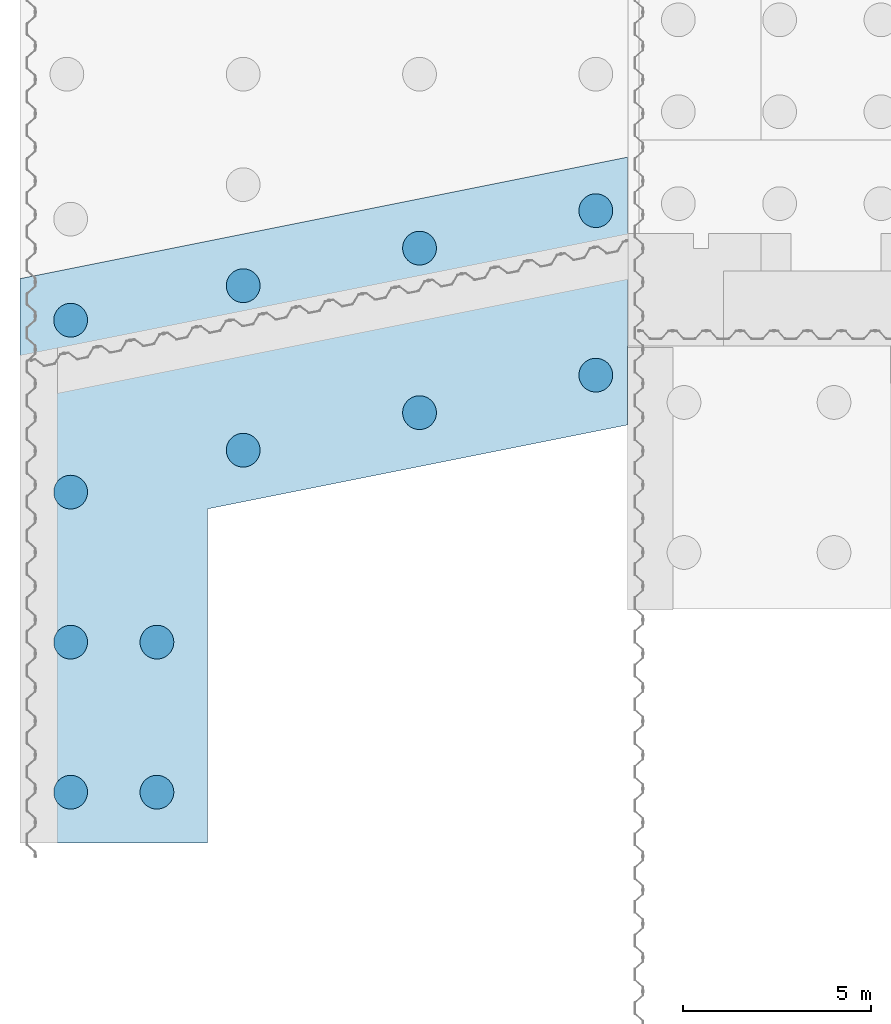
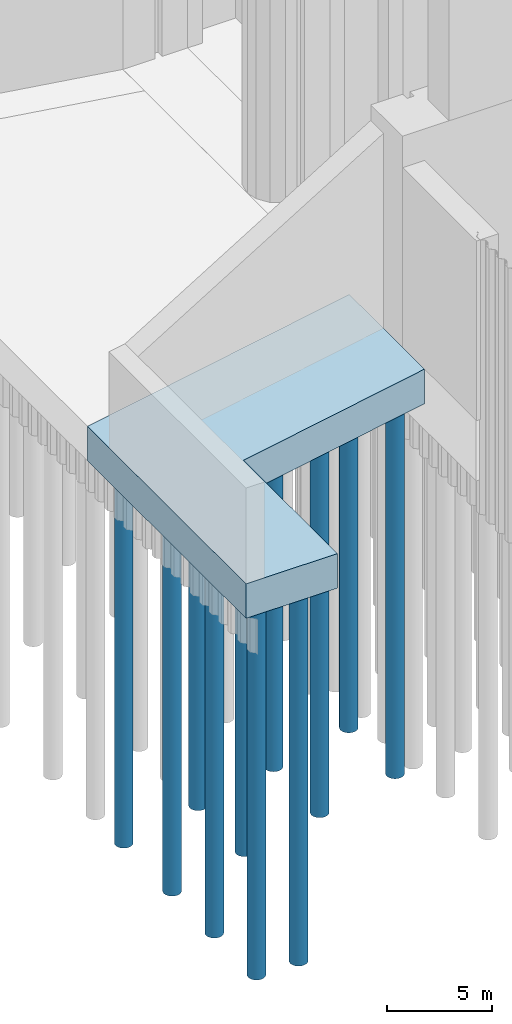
# One storey, part 1 of 9: 2 slabs.
"""IFC2X3 building model written with IfcOpenShell, lengths in millimetres."""

from ifc_helpers import new_model, entity, si_unit, converted_unit, derived_unit, direction, frame, origin, origin_2d_with_axis, place, context, subcontext, project, spatial, polyline, circle, outline, extrude, material, type_object, element, save


model = new_model("IFC2X3")

# Units and contexts
model_context = context("Model", 3, precision=0.01, world=origin(), true_north=direction((6.12303176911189e-17, 1.0)))
body_context = subcontext(model_context, "Body", "Model", "MODEL_VIEW")
ifc_project = project(units=[si_unit("LENGTHUNIT", "METRE", prefix="MILLI"), si_unit("AREAUNIT", "SQUARE_METRE"), si_unit("VOLUMEUNIT", "CUBIC_METRE"), converted_unit("PLANEANGLEUNIT", "DEGREE", entity("IfcRatioMeasure", 0.0174532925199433), si_unit("PLANEANGLEUNIT", "RADIAN"), dimensions=[0, 0, 0, 0, 0, 0, 0]), si_unit("MASSUNIT", "GRAM", prefix="KILO"), derived_unit("MASSDENSITYUNIT", [(si_unit("MASSUNIT", "GRAM", prefix="KILO"), 1), (si_unit("LENGTHUNIT", "METRE"), -3)]), si_unit("TIMEUNIT", "SECOND"), si_unit("FREQUENCYUNIT", "HERTZ"), si_unit("THERMODYNAMICTEMPERATUREUNIT", "DEGREE_CELSIUS"), derived_unit("THERMALTRANSMITTANCEUNIT", [(si_unit("MASSUNIT", "GRAM", prefix="KILO"), 1), (si_unit("THERMODYNAMICTEMPERATUREUNIT", "KELVIN"), -1), (si_unit("TIMEUNIT", "SECOND"), -3)]), derived_unit("VOLUMETRICFLOWRATEUNIT", [(si_unit("LENGTHUNIT", "METRE"), 3), (si_unit("TIMEUNIT", "SECOND"), -1)]), si_unit("ELECTRICCURRENTUNIT", "AMPERE"), si_unit("ELECTRICVOLTAGEUNIT", "VOLT"), si_unit("POWERUNIT", "WATT"), si_unit("FORCEUNIT", "NEWTON", prefix="KILO"), si_unit("ILLUMINANCEUNIT", "LUX"), si_unit("LUMINOUSFLUXUNIT", "LUMEN"), si_unit("LUMINOUSINTENSITYUNIT", "CANDELA"), derived_unit("USERDEFINED", [(si_unit("MASSUNIT", "GRAM", prefix="KILO"), -1), (si_unit("LENGTHUNIT", "METRE"), -2), (si_unit("TIMEUNIT", "SECOND"), 3), (si_unit("LUMINOUSFLUXUNIT", "LUMEN"), 1)]), derived_unit("LINEARVELOCITYUNIT", [(si_unit("LENGTHUNIT", "METRE"), 1), (si_unit("TIMEUNIT", "SECOND"), -1)]), si_unit("PRESSUREUNIT", "PASCAL"), derived_unit("USERDEFINED", [(si_unit("LENGTHUNIT", "METRE"), -2), (si_unit("MASSUNIT", "GRAM", prefix="KILO"), 1), (si_unit("TIMEUNIT", "SECOND"), -2)])], contexts=[model_context])

# Site, building, storey
site_placement = place(None, origin())
site = spatial("IfcSite", under=ifc_project, at=site_placement, Name="Default", CompositionType="ELEMENT")
building_placement = place(site_placement, origin())
building = spatial("IfcBuilding", under=site, at=building_placement, CompositionType="ELEMENT")
storey_placement = place(building_placement, origin())
storey = spatial("IfcBuildingStorey", under=building, at=storey_placement, Name="設計GL", CompositionType="ELEMENT", Elevation=0.0)

# Slabs
ifc_material_1 = material(Name="コンクリート - 現場打ちコンクリート")
slab_type_1 = type_object("IfcSlabType", Name="40501_Co_川表翼壁(下流)底版", PredefinedType="FLOOR", material=ifc_material_1)
slab_1_placement = place(storey_placement, origin())
element("IfcSlab", 1, at=slab_1_placement, inside=storey, type_object=slab_type_1, Name="40501_Co_川表翼壁(下流)底版:40501_Co_川表翼壁(下流)底版", ObjectType="40501_Co_川表翼壁(下流)底版:40501_Co_川表翼壁(下流)底版", PredefinedType="FLOOR", context=body_context, shape_type="SweptSolid", body=[
    extrude(outline(polyline([(-7066.6666667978, -8893.52943062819), (-2066.6666667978, -8893.52943062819), (-2066.6666667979, 7.45105577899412), (9133.33333359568, 2247.45105577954), (9133.33333359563, 9386.07837488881), (-7066.6666667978, 6146.07837480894), (-7066.6666667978, -8893.52943062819)])), frame((-62246.002646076, -80638.7785006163, 2210.0)), (0.0, 0.0, 1.0), 2000.0),
])
ifc_material_2 = material(Name="ベタ基礎")
slab_type_2 = type_object("IfcSlabType", Name="70501.dwg", PredefinedType="FLOOR", material=ifc_material_2)
slab_2_placement = place(storey_placement, origin())
element("IfcSlab", 2, at=slab_2_placement, inside=storey, type_object=slab_type_2, Name="70501.dwg:70501.dwg", ObjectType="70501.dwg:70501.dwg", PredefinedType="FLOOR", context=body_context, shape_type="SweptSolid", body=[
    extrude(circle(Radius=449.999999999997, at=origin_2d_with_axis()), frame((-67962.628114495, -88182.3079312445, -19690.0)), (0.0, 0.0, 1.0), 22000.0),
    extrude(circle(Radius=449.999999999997, at=origin_2d_with_axis()), frame((-65662.6693128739, -88182.3079312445, -19690.0)), (0.0, 0.0, 1.0), 22000.0),
    extrude(circle(Radius=449.999999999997, at=origin_2d_with_axis()), frame((-67962.6487136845, -84182.3079312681, -19690.0)), (0.0, 0.0, 1.0), 22000.0),
    extrude(circle(Radius=449.999999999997, at=origin_2d_with_axis()), frame((-65662.6899120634, -84182.3079312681, -19690.0)), (0.0, 0.0, 1.0), 22000.0),
    extrude(circle(Radius=449.999999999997, at=origin_2d_with_axis()), frame((-67962.6693128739, -80182.3079312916, -19690.0)), (0.0, 0.0, 1.0), 22000.0),
    extrude(circle(Radius=449.999999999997, at=origin_2d_with_axis()), frame((-67962.6899120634, -75599.4395143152, -19690.0)), (0.0, 0.0, 1.0), 22000.0),
    extrude(circle(Radius=449.999999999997, at=origin_2d_with_axis()), frame((-63362.4901623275, -74679.3995643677, -19690.0)), (0.0, 0.0, 1.0), 22000.0),
    extrude(circle(Radius=449.999999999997, at=origin_2d_with_axis()), frame((-58662.5038955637, -73679.3350203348, -19690.0)), (0.0, 0.0, 1.0), 22000.0),
    extrude(circle(Radius=449.999999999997, at=origin_2d_with_axis()), frame((-53962.5176288, -72679.2704763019, -19690.0)), (0.0, 0.0, 1.0), 22000.0),
    extrude(circle(Radius=449.999999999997, at=origin_2d_with_axis()), frame((-53962.497654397, -77064.4232631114, -19690.0)), (0.0, 0.0, 1.0), 22000.0),
    extrude(circle(Radius=449.999999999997, at=origin_2d_with_axis()), frame((-58662.4839211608, -78064.4878071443, -19690.0)), (0.0, 0.0, 1.0), 22000.0),
    extrude(circle(Radius=449.999999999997, at=origin_2d_with_axis()), frame((-63362.4701879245, -79064.5523511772, -19690.0)), (0.0, 0.0, 1.0), 22000.0),
])

save(model, "model.ifc")
